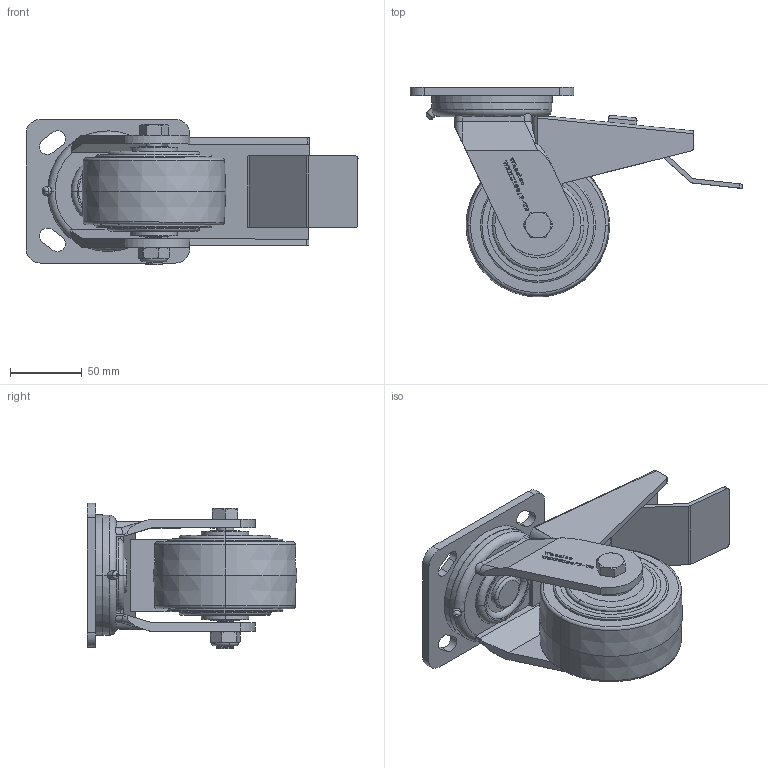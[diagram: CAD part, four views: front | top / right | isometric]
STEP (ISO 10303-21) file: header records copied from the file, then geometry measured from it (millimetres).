
FILE_DESCRIPTION (( 'STEP AP214' ), '1' );
FILE_NAME ('WXHU100-P-TB.step', '2024-01-17T23:03:21', ( '' ), ( '' ), 'SwSTEP 2.0', 'SolidWorks 2022', '' );
FILE_SCHEMA (( 'AUTOMOTIVE_DESIGN' ));
Length unit declared in the file: millimetre
Products named in the file (8): WXHU100-P-TB; WX100-P-TB; 100X114 PLATE; M12 X 90; SP20-12-62; M12NYLOC; SP33X20X3; MHU100
Assembly tree (8 placements, depth 2):
  WXHU100-P-TB
    WX100-P-TB
    M12 X 90
    M12NYLOC
    MHU100
    SP20-12-62
    SP33X20X3  x2
    100X114 PLATE
Bounding box: 231.06 x 146 x 101.1 mm (x, y, z)
Volume: 688782.1 mm3; surface area: 150035.1 mm2
Topology: 8 solids, 8 shells, 683 faces, 1818 edges, 1194 vertices
Faces by surface type: plane 375, cylinder 143, bspline 113, torus 32, cone 20
Entity records: 32732 total; most frequent: CARTESIAN_POINT 15291, ORIENTED_EDGE 3612, DIRECTION 2817, EDGE_CURVE 1806, VERTEX_POINT 1186, VECTOR 1133, LINE 1133, AXIS2_PLACEMENT_3D 842
